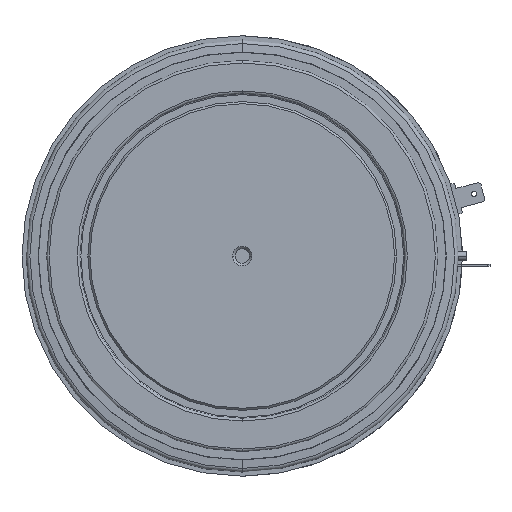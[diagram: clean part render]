
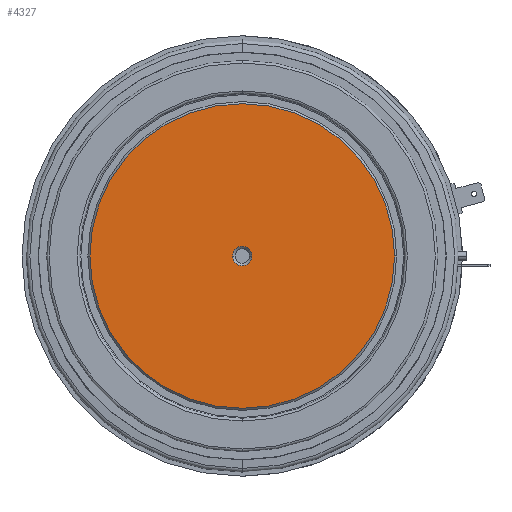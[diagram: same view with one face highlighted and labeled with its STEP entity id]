
A CAD part, front view. The second image highlights one B-rep face of the part: STEP entity #4327.
In plain terms, the highlighted planar face has unit normal (0, -1, 0).
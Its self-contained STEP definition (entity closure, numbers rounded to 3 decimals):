
#153 = VERTEX_POINT ( 'NONE', #6399 ) ;
#304 = DIRECTION ( 'NONE',  ( -1., 0., 0. ) ) ;
#434 = EDGE_CURVE ( 'NONE', #3668, #2232, #7701, .T. ) ;
#665 = AXIS2_PLACEMENT_3D ( 'NONE', #1603, #5875, #7080 ) ;
#1222 = DIRECTION ( 'NONE',  ( -1., 0., 0. ) ) ;
#1247 = CIRCLE ( 'NONE', #5664, 2.35 ) ;
#1523 = CARTESIAN_POINT ( 'NONE',  ( -37., -35., 0. ) ) ;
#1537 = EDGE_CURVE ( 'NONE', #153, #7382, #6160, .T. ) ;
#1603 = CARTESIAN_POINT ( 'NONE',  ( 0., -35., 0. ) ) ;
#1626 = DIRECTION ( 'NONE',  ( 0., 1., 0. ) ) ;
#1819 = DIRECTION ( 'NONE',  ( -1., 0., 0. ) ) ;
#1913 = ORIENTED_EDGE ( 'NONE', *, *, #7451, .T. ) ;
#2207 = FACE_BOUND ( 'NONE', #6832, .T. ) ;
#2232 = VERTEX_POINT ( 'NONE', #7868 ) ;
#2424 = FACE_OUTER_BOUND ( 'NONE', #6395, .T. ) ;
#2755 = ORIENTED_EDGE ( 'NONE', *, *, #5962, .F. ) ;
#2969 = CARTESIAN_POINT ( 'NONE',  ( 0., -35., 0. ) ) ;
#3003 = CARTESIAN_POINT ( 'NONE',  ( 0., -35., 0. ) ) ;
#3518 = CIRCLE ( 'NONE', #665, 37. ) ;
#3530 = DIRECTION ( 'NONE',  ( 0., 1., 0. ) ) ;
#3668 = VERTEX_POINT ( 'NONE', #3955 ) ;
#3686 = DIRECTION ( 'NONE',  ( 0., 1., 0. ) ) ;
#3727 = AXIS2_PLACEMENT_3D ( 'NONE', #2969, #3686, #1222 ) ;
#3955 = CARTESIAN_POINT ( 'NONE',  ( -37., -35., 0. ) ) ;
#4081 = DIRECTION ( 'NONE',  ( -1., 0., 0. ) ) ;
#4092 = AXIS2_PLACEMENT_3D ( 'NONE', #1523, #4583, #304 ) ;
#4327 = ADVANCED_FACE ( 'NONE', ( #2424, #2207 ), #7649, .F. ) ;
#4583 = DIRECTION ( 'NONE',  ( 0., 1., 0. ) ) ;
#5291 = CARTESIAN_POINT ( 'NONE',  ( 2.35, -35., 0. ) ) ;
#5664 = AXIS2_PLACEMENT_3D ( 'NONE', #3003, #3530, #1819 ) ;
#5707 = ORIENTED_EDGE ( 'NONE', *, *, #434, .F. ) ;
#5875 = DIRECTION ( 'NONE',  ( 0., 1., 0. ) ) ;
#5962 = EDGE_CURVE ( 'NONE', #2232, #3668, #3518, .T. ) ;
#6160 = CIRCLE ( 'NONE', #7854, 2.35 ) ;
#6395 = EDGE_LOOP ( 'NONE', ( #5707, #2755 ) ) ;
#6399 = CARTESIAN_POINT ( 'NONE',  ( -2.35, -35., 0. ) ) ;
#6832 = EDGE_LOOP ( 'NONE', ( #1913, #7135 ) ) ;
#7080 = DIRECTION ( 'NONE',  ( -1., 0., 0. ) ) ;
#7135 = ORIENTED_EDGE ( 'NONE', *, *, #1537, .T. ) ;
#7382 = VERTEX_POINT ( 'NONE', #5291 ) ;
#7451 = EDGE_CURVE ( 'NONE', #7382, #153, #1247, .T. ) ;
#7649 = PLANE ( 'NONE',  #4092 ) ;
#7701 = CIRCLE ( 'NONE', #3727, 37. ) ;
#7721 = CARTESIAN_POINT ( 'NONE',  ( 0., -35., 0. ) ) ;
#7854 = AXIS2_PLACEMENT_3D ( 'NONE', #7721, #1626, #4081 ) ;
#7868 = CARTESIAN_POINT ( 'NONE',  ( 37., -35., 0. ) ) ;
